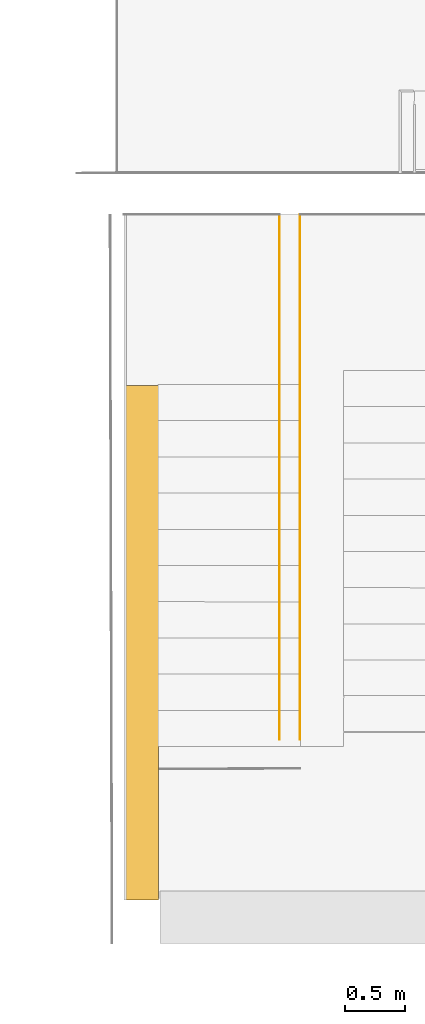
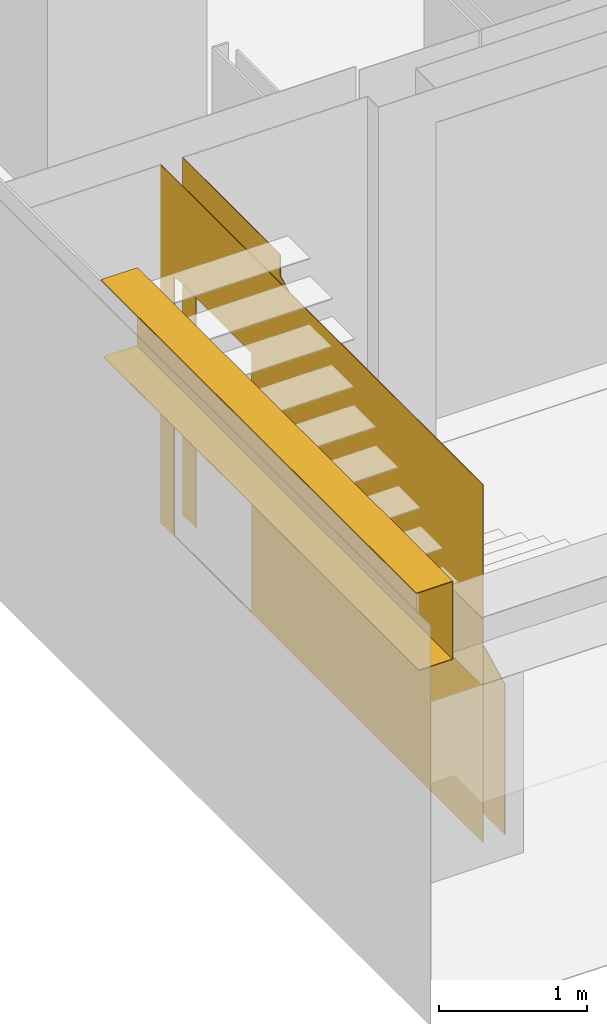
# One storey, part 31 of 33: 3 coverings, 3 openings.
"""IFC2X3 building model written with IfcOpenShell, lengths in millimetres."""

from ifc_helpers import new_model, entity, si_unit, converted_unit, derived_unit, money_unit, direction, frame, origin_with_axes, origin_2d_with_axis, place, context, subcontext, project, spatial, polyline, rectangle, outline, extrude, boolean, faceted_brep, material, type_object, element, save


model = new_model("IFC2X3")

# Units and contexts
model_context = context("Model", 3, precision=0.01, world=origin_with_axes(), true_north=direction((0.0, 1.0)))
body_context = subcontext(model_context, "Body", "Model", "MODEL_VIEW")
ifc_project = project(units=[si_unit("LENGTHUNIT", "METRE", prefix="MILLI"), si_unit("AREAUNIT", "SQUARE_METRE"), si_unit("VOLUMEUNIT", "CUBIC_METRE"), converted_unit("PLANEANGLEUNIT", "DEGREE", entity("IfcPlaneAngleMeasure", 0.0174532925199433), si_unit("PLANEANGLEUNIT", "RADIAN"), dimensions=[0, 0, 0, 0, 0, 0, 0]), money_unit("EUR"), converted_unit("TIMEUNIT", "Year", entity("IfcTimeMeasure", 31556926.0), si_unit("TIMEUNIT", "SECOND"), dimensions=[0, 0, 1, 0, 0, 0, 0]), si_unit("MASSUNIT", "GRAM", prefix="KILO"), si_unit("THERMODYNAMICTEMPERATUREUNIT", "DEGREE_CELSIUS"), si_unit("LUMINOUSINTENSITYUNIT", "LUMEN"), si_unit("ENERGYUNIT", "JOULE", prefix="MEGA"), derived_unit("THERMALCONDUCTANCEUNIT", [(si_unit("POWERUNIT", "WATT"), 1), (si_unit("LENGTHUNIT", "METRE"), -1), (si_unit("THERMODYNAMICTEMPERATUREUNIT", "KELVIN"), -1)]), derived_unit("SPECIFICHEATCAPACITYUNIT", [(si_unit("ENERGYUNIT", "JOULE"), 1), (si_unit("MASSUNIT", "GRAM", prefix="KILO"), -1), (si_unit("THERMODYNAMICTEMPERATUREUNIT", "KELVIN"), -1)]), derived_unit("MASSDENSITYUNIT", [(si_unit("MASSUNIT", "GRAM", prefix="KILO"), 1), (si_unit("VOLUMEUNIT", "CUBIC_METRE"), -1)])], contexts=[model_context])

# Site, building, storey
site_placement = place(None, origin_with_axes())
site = spatial("IfcSite", under=ifc_project, at=site_placement, Name="Paldiski mnt 245/1, Tallinn, Harjumaa", CompositionType="COMPLEX")
building_placement = place(site_placement, origin_with_axes())
building = spatial("IfcBuilding", under=site, at=building_placement, Name="RKAS Hoone üldnimetus (kasutust iseloomustav) -> IFC Project Manager -> SOLIBRI", CompositionType="ELEMENT")
storey_placement = place(building_placement, origin_with_axes())
storey = spatial("IfcBuildingStorey", under=building, at=storey_placement, Name="Esimene korrus", CompositionType="ELEMENT", Elevation=0.0)

# Covering, openings
ifc_material_1 = material(Name="SA- Värv SM10(tumehall)")
covering_type_1 = type_object("IfcCoveringType", Name="SA- Värv SM10(tumehall) 5", PredefinedType="CLADDING")
covering_1_placement = place(storey_placement, frame((-46135.0000000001, -6470.084087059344, 0.0), z_axis=(0.0, 0.0, 1.0), x_axis=(0.0, -1.0, 0.0)))
covering_1 = element("IfcCovering", 1, at=covering_1_placement, inside=storey, type_object=covering_type_1, material=ifc_material_1, Name="SM10", PredefinedType="CLADDING", context=body_context, shape_type="CSG", body=[
    boolean("DIFFERENCE", boolean("DIFFERENCE", extrude(outline(polyline([(0.0, 0.0), (4352.251295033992, 0.0), (4352.251295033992, 5.000000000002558), (0.0, 5.000000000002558), (0.0, 0.0)])), origin_with_axes(), (0.0, 0.0, 1.0), 2950.0), faceted_brep([(1495.41676623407, 4.999999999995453, 2685.994500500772), (1320.416771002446, 4.999999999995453, 2774.024801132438), (1320.416771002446, 4.999999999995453, 2950.0), (4352.251295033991, 5.000000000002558, 2950.0), (4352.251295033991, 5.000000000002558, 1248.920161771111), (4345.416766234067, 5.000000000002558, 1252.358136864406), (4320.416766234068, 5.000000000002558, 1264.933894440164), (4270.416766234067, 4.999999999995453, 1290.08540959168), (4220.416766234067, 4.999999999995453, 1315.236924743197), (4195.416766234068, 5.000000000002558, 1327.812682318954), (4120.416766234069, 5.000000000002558, 1365.539955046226), (4045.41676623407, 5.000000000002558, 1403.267227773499), (4020.416766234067, 5.000000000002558, 1415.842985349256), (3970.416766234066, 4.999999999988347, 1440.994500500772), (3920.41676623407, 5.000000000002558, 1466.146015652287), (3895.416766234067, 5.000000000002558, 1478.721773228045), (3820.416766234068, 5.000000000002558, 1516.449045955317), (3720.416766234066, 4.999999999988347, 1566.752076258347), (3620.416766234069, 5.000000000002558, 1617.055106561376), (3520.416766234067, 5.000000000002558, 1667.358136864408), (3445.416766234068, 4.999999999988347, 1705.08540959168), (3370.416766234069, 4.999999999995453, 1742.812682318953), (3295.41676623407, 5.000000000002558, 1780.539955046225), (3220.416766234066, 5.000000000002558, 1818.267227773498), (3145.416766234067, 4.999999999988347, 1855.99450050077), (3120.416766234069, 4.999999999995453, 1868.570258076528), (3070.416766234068, 5.000000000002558, 1893.721773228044), (3020.416766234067, 5.000000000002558, 1918.87328837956), (2995.416766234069, 5.000000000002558, 1931.449045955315), (2920.416766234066, 5.000000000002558, 1969.176318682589), (2820.416766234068, 4.999999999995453, 2019.47934898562), (2720.416766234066, 5.000000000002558, 2069.782379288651), (2620.416766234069, 4.999999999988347, 2120.08540959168), (2545.41676623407, 4.999999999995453, 2157.812682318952), (2520.416766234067, 4.999999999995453, 2170.388439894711), (2470.416766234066, 4.999999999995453, 2195.539955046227), (2420.416766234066, 5.000000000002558, 2220.691470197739), (2395.416766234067, 5.000000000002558, 2233.267227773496), (2320.416766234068, 4.999999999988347, 2270.994500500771), (2245.416766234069, 4.999999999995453, 2308.721773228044), (2220.416766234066, 4.999999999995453, 2321.297530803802), (2170.416766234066, 4.999999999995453, 2346.449045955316), (2120.416766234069, 5.000000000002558, 2371.60056110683), (2095.416766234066, 4.999999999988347, 2384.17631868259), (2020.416766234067, 4.999999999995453, 2421.903591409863), (1920.416766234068, 4.999999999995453, 2472.206621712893), (1820.416766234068, 4.999999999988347, 2522.509652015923), (1720.416766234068, 4.999999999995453, 2572.812682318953), (1645.416766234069, 4.999999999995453, 2610.539955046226), (1570.416766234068, 4.999999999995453, 2648.267227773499), (1495.41676623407, 0.0, 2685.994500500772), (1320.416771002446, 0.0, 2774.024801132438), (1320.416771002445, 0.0, 2950.0), (4352.251295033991, 0.0, 2950.0), (4352.251295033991, 1.13686837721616e-10, 1248.920161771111), (4345.416766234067, 1.13686837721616e-10, 1252.358136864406), (4320.416766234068, 1.13686837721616e-10, 1264.933894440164), (4270.416766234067, 0.0, 1290.08540959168), (4220.416766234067, 0.0, 1315.236924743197), (4195.416766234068, 1.06581410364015e-10, 1327.812682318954), (4120.416766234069, 1.06581410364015e-10, 1365.539955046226), (4045.41676623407, 1.06581410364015e-10, 1403.267227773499), (4020.416766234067, 1.06581410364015e-10, 1415.842985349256), (3970.416766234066, 0.0, 1440.994500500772), (3920.41676623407, 0.0, 1466.146015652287), (3895.416766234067, 0.0, 1478.721773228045), (3820.416766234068, 0.0, 1516.449045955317), (3720.416766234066, 0.0, 1566.752076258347), (3620.416766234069, 0.0, 1617.055106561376), (3520.416766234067, 0.0, 1667.358136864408), (3445.416766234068, 0.0, 1705.08540959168), (3370.416766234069, 0.0, 1742.812682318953), (3295.41676623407, 0.0, 1780.539955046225), (3220.416766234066, 0.0, 1818.267227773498), (3145.416766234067, 0.0, 1855.99450050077), (3120.416766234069, 0.0, 1868.570258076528), (3070.416766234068, 0.0, 1893.721773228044), (3020.416766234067, 0.0, 1918.87328837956), (2995.416766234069, 0.0, 1931.449045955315), (2920.416766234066, 0.0, 1969.176318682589), (2820.416766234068, 0.0, 2019.47934898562), (2720.416766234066, 0.0, 2069.782379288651), (2620.416766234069, 0.0, 2120.08540959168), (2545.41676623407, 0.0, 2157.812682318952), (2520.416766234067, 0.0, 2170.388439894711), (2470.416766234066, 0.0, 2195.539955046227), (2420.416766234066, 0.0, 2220.691470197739), (2395.416766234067, 0.0, 2233.267227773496), (2320.416766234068, 0.0, 2270.994500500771), (2245.416766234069, 0.0, 2308.721773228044), (2220.416766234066, 0.0, 2321.297530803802), (2170.416766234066, 0.0, 2346.449045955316), (2120.416766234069, 0.0, 2371.60056110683), (2095.416766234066, 0.0, 2384.17631868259), (2020.416766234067, 0.0, 2421.903591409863), (1920.416766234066, 0.0, 2472.206621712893), (1820.416766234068, 0.0, 2522.509652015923), (1720.416766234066, 0.0, 2572.812682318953), (1645.416766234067, 0.0, 2610.539955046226), (1570.416766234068, 0.0, 2648.267227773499)], [[[0, 1, 2, 3, 4, 5, 6, 7, 8, 9, 10, 11, 12, 13, 14, 15, 16, 17, 18, 19, 20, 21, 22, 23, 24, 25, 26, 27, 28, 29, 30, 31, 32, 33, 34, 35, 36, 37, 38, 39, 40, 41, 42, 43, 44, 45, 46, 47, 48, 49]], [[1, 0, 50, 51]], [[52, 2, 1, 51]], [[2, 52, 53, 3]], [[54, 4, 3, 53]], [[5, 4, 54, 55]], [[6, 5, 55, 56]], [[7, 6, 56, 57]], [[8, 7, 57, 58]], [[9, 8, 58, 59]], [[10, 9, 59, 60]], [[11, 10, 60, 61]], [[12, 11, 61, 62]], [[13, 12, 62, 63]], [[14, 13, 63, 64]], [[15, 14, 64, 65]], [[16, 15, 65, 66]], [[17, 16, 66, 67]], [[18, 17, 67, 68]], [[19, 18, 68, 69]], [[20, 19, 69, 70]], [[21, 20, 70, 71]], [[22, 21, 71, 72]], [[23, 22, 72, 73]], [[24, 23, 73, 74]], [[25, 24, 74, 75]], [[26, 25, 75, 76]], [[27, 26, 76, 77]], [[28, 27, 77, 78]], [[29, 28, 78, 79]], [[30, 29, 79, 80]], [[31, 30, 80, 81]], [[32, 31, 81, 82]], [[33, 32, 82, 83]], [[34, 33, 83, 84]], [[35, 34, 84, 85]], [[36, 35, 85, 86]], [[37, 36, 86, 87]], [[38, 37, 87, 88]], [[39, 38, 88, 89]], [[40, 39, 89, 90]], [[41, 40, 90, 91]], [[42, 41, 91, 92]], [[43, 42, 92, 93]], [[44, 43, 93, 94]], [[45, 44, 94, 95]], [[46, 45, 95, 96]], [[47, 46, 96, 97]], [[48, 47, 97, 98]], [[49, 48, 98, 99]], [[0, 49, 99, 50]], [[55, 54, 53, 52, 51, 50, 99, 98, 97, 96, 95, 94, 93, 92, 91, 90, 89, 88, 87, 86, 85, 84, 83, 82, 81, 80, 79, 78, 77, 76, 75, 74, 73, 72, 71, 70, 69, 68, 67, 66, 65, 64, 63, 62, 61, 60, 59, 58, 57, 56]]])), faceted_brep([(3.079314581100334e-09, 0.0, 8.000000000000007), (3.079314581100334e-09, 5.000000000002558, 8.000000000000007), (0.0, 5.000000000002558, 0.0), (0.0, 0.0, 0.0), (200.003604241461, 5.003587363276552, 7.999998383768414), (199.9801222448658, 0.0, 8.000000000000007), (1199.361295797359, 5.00000000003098, 8.000000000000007), (4352.251295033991, 5.000000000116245, 8.000000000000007), (4352.251295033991, 5.000000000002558, 0.0), (200.0269204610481, 5.000000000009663, 60.03329817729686), (205.5870251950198, 5.000000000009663, 60.14114103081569), (209.9645287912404, 5.000000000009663, 56.3364535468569), (209.9711479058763, 5.000000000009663, 8.000000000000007), (990.0289619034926, 5.000000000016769, 8.000000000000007), (990.0355809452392, 5.000000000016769, 56.3364535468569), (994.4130363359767, 5.000000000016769, 60.14114103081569), (998.8703294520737, 5.000000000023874, 60.05468717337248), (1195.207059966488, 5.00000000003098, 60.03329817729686), (4352.251295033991, 0.0, 0.0), (4352.251295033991, 1.13686837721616e-10, 8.000000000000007), (999.9964126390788, 0.0, 8.000000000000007), (999.9730798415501, 0.0, 60.03329817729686), (994.4130363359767, 0.0, 60.14114103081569), (990.0355809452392, 0.0, 56.3364535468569), (990.0289619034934, 0.0, 8.000000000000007), (209.9476827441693, 0.0, 8.000000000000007), (209.9410636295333, 0.0, 56.3364535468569), (205.5635600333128, 0.0, 60.14114103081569), (200.0034552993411, 0.0, 60.03329817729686), (999.9964126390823, 3.880223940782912, 8.000000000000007), (999.9730798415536, 3.903426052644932, 60.03329817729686)], [[[0, 1, 2, 3]], [[4, 1, 0, 5]], [[6, 7, 8, 2, 1, 4, 9, 10, 11, 12, 13, 14, 15, 16, 17]], [[2, 8, 18, 3]], [[5, 0, 3, 18, 19, 20, 21, 22, 23, 24, 25, 26, 27, 28]], [[9, 4, 5, 28]], [[7, 6, 29, 20, 19]], [[7, 19, 18, 8]], [[10, 9, 28, 27]], [[11, 10, 27, 26]], [[12, 11, 26, 25]], [[13, 12, 25, 24]], [[14, 13, 24, 23]], [[15, 14, 23, 22]], [[16, 15, 22, 21, 30]], [[17, 16, 30]], [[6, 17, 30, 29]], [[21, 20, 29, 30]]])),
])
opening_1_placement = place(covering_1_placement, frame((-6470.084087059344, 46135.0000000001, 0.0), z_axis=(0.0, 0.0, 1.0), x_axis=(0.0, 1.0, 0.0)))
element("IfcOpeningElement", 2, at=opening_1_placement, cuts=covering_1, Name="AVA", ObjectType="OPENING", context=body_context, shape_type="SweptSolid", body=[
    extrude(rectangle(XDim=833.2070641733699, YDim=2133.716326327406, at=origin_2d_with_axis()), frame((-46140.00000000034, -7070.764160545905, 1074.858163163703), z_axis=(-1.0, 0.0, 0.0), x_axis=(0.0, -1.0, 0.0)), (0.0, 0.0, -1.0), 15.00000000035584),
])
opening_2_placement = place(covering_1_placement, frame((-6470.084087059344, 46135.0000000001, 0.0), z_axis=(0.0, 0.0, 1.0), x_axis=(0.0, 1.0, 0.0)))
element("IfcOpeningElement", 3, at=opening_2_placement, cuts=covering_1, Name="AVA", ObjectType="OPENING", context=body_context, shape_type="SweptSolid", body=[
    extrude(rectangle(XDim=837.8032747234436, YDim=2113.167381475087, at=origin_2d_with_axis()), frame((-46140.00000000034, -7072.761125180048, 1064.583690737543), z_axis=(-1.0, 0.0, 0.0), x_axis=(0.0, -1.0, 0.0)), (0.0, 0.0, -1.0), 15.00000000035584),
])

# Covering, opening
ifc_material_2 = material(Name="SA- Värv SM5(valge)")
covering_type_2 = type_object("IfcCoveringType", Name="SA- Värv SM5(valge) 5", PredefinedType="CLADDING")
covering_2_placement = place(storey_placement, frame((-46305.00000000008, -6470.084087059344, 0.0), z_axis=(0.0, 0.0, 1.0), x_axis=(0.0, -1.0, 0.0)))
covering_2 = element("IfcCovering", 4, at=covering_2_placement, inside=storey, type_object=covering_type_2, material=ifc_material_2, Name="SM5", PredefinedType="CLADDING", context=body_context, shape_type="CSG", body=[
    boolean("DIFFERENCE", extrude(outline(polyline([(-3.072031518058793e-08, 0.0), (4352.251295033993, 0.0), (4352.251295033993, 5.000000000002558), (-3.072031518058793e-08, 5.000000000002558), (-3.072031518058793e-08, 0.0)])), origin_with_axes(), (0.0, 0.0, 1.0), 2950.0), faceted_brep([(4345.416766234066, -1.989519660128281e-10, 1252.358136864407), (4352.251295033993, 1.13686837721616e-10, 1248.92016177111), (4352.251295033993, 0.0, 2950.0), (-3.072031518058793e-08, 0.0, 2950.0), (-3.072031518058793e-08, 0.0, 0.0), (4352.251295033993, 0.0, 0.0), (4352.251295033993, 1.13686837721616e-10, 60.12975625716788), (1000.000000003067, 0.0, 60.12975625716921), (1000.000000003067, 0.0, 8.000000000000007), (4.999999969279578, 0.0, 8.000000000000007), (5.00000000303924, 0.0, 2798.073191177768), (200.000000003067, 0.0, 2798.073191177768), (200.000000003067, 0.0, 2858.129756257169), (4.999999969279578, 3.375788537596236e-08, 2858.129756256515), (4.999999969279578, 0.0, 2945.0), (1320.416760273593, 0.0, 2945.0), (1320.416760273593, -3.268496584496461e-10, 2774.024806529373), (1495.41676623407, -3.197442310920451e-10, 2685.994500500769), (1570.416766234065, -3.126388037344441e-10, 2648.267227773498), (1645.416766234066, -3.126388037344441e-10, 2610.539955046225), (1720.416766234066, -3.126388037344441e-10, 2572.812682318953), (1820.416766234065, -3.197442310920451e-10, 2522.509652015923), (1920.416766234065, -2.984279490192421e-10, 2472.206621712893), (2020.416766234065, -2.984279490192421e-10, 2421.903591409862), (2095.416766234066, -3.055333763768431e-10, 2384.176318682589), (2120.416766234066, -2.913225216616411e-10, 2371.600561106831), (2170.416766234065, -2.913225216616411e-10, 2346.449045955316), (2220.416766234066, -2.913225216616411e-10, 2321.297530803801), (2245.416766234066, -2.913225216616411e-10, 2308.721773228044), (2320.416766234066, -2.913225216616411e-10, 2270.994500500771), (2395.416766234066, -2.771116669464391e-10, 2233.267227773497), (2420.416766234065, -2.771116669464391e-10, 2220.69147019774), (2470.416766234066, -2.771116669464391e-10, 2195.539955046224), (2520.416766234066, -2.771116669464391e-10, 2170.38843989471), (2545.416766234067, -2.771116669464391e-10, 2157.812682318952), (2620.416766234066, -2.842170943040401e-10, 2120.08540959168), (2720.416766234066, -2.629008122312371e-10, 2069.78237928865), (2820.416766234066, -2.629008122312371e-10, 2019.47934898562), (2920.416766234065, -2.557953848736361e-10, 1969.176318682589), (2995.416766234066, -2.557953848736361e-10, 1931.449045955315), (3020.416766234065, -2.557953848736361e-10, 1918.873288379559), (3070.416766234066, -2.557953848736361e-10, 1893.721773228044), (3120.416766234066, -2.557953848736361e-10, 1868.57025807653), (3145.416766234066, -2.557953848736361e-10, 1855.994500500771), (3220.416766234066, -2.415845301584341e-10, 1818.267227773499), (3295.416766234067, -2.415845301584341e-10, 1780.539955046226), (3370.416766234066, -2.415845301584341e-10, 1742.812682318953), (3445.416766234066, -2.486899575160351e-10, 1705.08540959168), (3520.416766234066, -2.344791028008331e-10, 1667.358136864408), (3620.416766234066, -2.273736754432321e-10, 1617.055106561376), (3720.416766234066, -2.344791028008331e-10, 1566.752076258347), (3820.416766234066, -2.202682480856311e-10, 1516.449045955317), (3895.416766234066, -2.202682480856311e-10, 1478.721773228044), (3920.416766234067, -2.202682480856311e-10, 1466.146015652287), (3970.416766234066, -2.273736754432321e-10, 1440.994500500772), (4020.416766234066, -2.060573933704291e-10, 1415.842985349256), (4045.416766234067, -2.060573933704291e-10, 1403.267227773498), (4120.416766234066, -2.060573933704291e-10, 1365.539955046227), (4195.416766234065, -2.060573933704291e-10, 1327.812682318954), (4220.416766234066, -2.131628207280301e-10, 1315.236924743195), (4270.416766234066, -2.131628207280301e-10, 1290.08540959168), (4320.416766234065, -1.989519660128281e-10, 1264.933894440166), (4345.416766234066, 4.999667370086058, 1252.358136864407), (4352.251295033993, 5.000000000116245, 1248.92016177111), (4352.251295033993, 5.000000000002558, 2950.0), (-3.072031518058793e-08, 5.000000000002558, 2950.0), (-3.072031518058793e-08, 5.000000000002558, 0.0), (4352.251295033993, 5.000000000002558, 0.0), (4352.251295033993, 5.000000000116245, 8.000000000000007), (4352.251295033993, 4.973079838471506, 60.03329817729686), (1000.000000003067, 4.97307983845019, 60.03329817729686), (1000.000000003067, 4.996412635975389, 8.000000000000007), (4.999999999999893, 5.000000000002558, 8.000000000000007), (4.999999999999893, 4.999994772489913, 2798.000000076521), (200.000000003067, 4.999999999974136, 2798.0), (200.000000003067, 4.973079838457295, 2858.033298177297), (4.999999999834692, 4.973079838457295, 2858.033298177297), (4.999999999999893, 4.999994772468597, 2798.011657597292), (4.999999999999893, 4.999994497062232, 2945.0), (1320.416760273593, 4.999994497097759, 2945.0), (1320.416760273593, 5.000591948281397, 2774.024806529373), (1495.41676623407, 5.000538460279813, 2685.994500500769), (1570.416766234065, 5.000515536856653, 2648.267227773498), (1645.416766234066, 5.000492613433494, 2610.539955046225), (1720.416766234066, 5.000469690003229, 2572.812682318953), (1820.416766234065, 5.000439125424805, 2522.509652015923), (1920.416766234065, 5.000408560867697, 2472.206621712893), (2020.416766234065, 5.000377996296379, 2421.903591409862), (2095.416766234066, 5.000355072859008, 2384.176318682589), (2120.416766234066, 5.000347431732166, 2371.600561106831), (2170.416766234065, 5.00033214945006, 2346.449045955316), (2220.416766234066, 5.000316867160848, 2321.297530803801), (2245.416766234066, 5.000309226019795, 2308.721773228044), (2320.416766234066, 5.000286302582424, 2270.994500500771), (2395.416766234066, 5.00026337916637, 2233.267227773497), (2420.416766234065, 5.000255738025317, 2220.69147019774), (2470.416766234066, 5.00024045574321, 2195.539955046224), (2520.416766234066, 5.000225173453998, 2170.38843989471), (2545.416766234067, 5.000217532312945, 2157.812682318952), (2620.416766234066, 5.000194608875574, 2120.08540959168), (2720.416766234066, 5.000164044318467, 2069.78237928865), (2820.416766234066, 5.000133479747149, 2019.47934898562), (2920.416766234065, 5.000102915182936, 1969.176318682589), (2995.416766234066, 5.000079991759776, 1931.449045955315), (3020.416766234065, 5.000072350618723, 1918.873288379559), (3070.416766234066, 5.000057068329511, 1893.721773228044), (3120.416766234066, 5.000041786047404, 1868.57025807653), (3145.416766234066, 5.00003414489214, 1855.994500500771), (3220.416766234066, 5.000011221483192, 1818.267227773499), (3295.416766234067, 4.999988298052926, 1780.539955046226), (3370.416766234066, 4.999965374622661, 1742.812682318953), (3445.416766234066, 4.999942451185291, 1705.08540959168), (3520.416766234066, 4.999919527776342, 1667.358136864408), (3620.416766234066, 4.999888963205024, 1617.055106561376), (3720.416766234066, 4.9998583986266, 1566.752076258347), (3820.416766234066, 4.999827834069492, 1516.449045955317), (3895.416766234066, 4.999804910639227, 1478.721773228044), (3920.416766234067, 4.999797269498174, 1466.146015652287), (3970.416766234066, 4.999781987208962, 1440.994500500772), (4020.416766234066, 4.999766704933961, 1415.842985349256), (4045.416766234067, 4.999759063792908, 1403.267227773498), (4120.416766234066, 4.999736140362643, 1365.539955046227), (4195.416766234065, 4.999713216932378, 1327.812682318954), (4220.416766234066, 4.999705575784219, 1315.236924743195), (4270.416766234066, 4.999690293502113, 1290.08540959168), (4320.416766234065, 4.999675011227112, 1264.933894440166)], [[[0, 1, 2, 3, 4, 5, 6, 7, 8, 9, 10, 11, 12, 13, 14, 15, 16, 17, 18, 19, 20, 21, 22, 23, 24, 25, 26, 27, 28, 29, 30, 31, 32, 33, 34, 35, 36, 37, 38, 39, 40, 41, 42, 43, 44, 45, 46, 47, 48, 49, 50, 51, 52, 53, 54, 55, 56, 57, 58, 59, 60, 61]], [[1, 0, 62, 63]], [[1, 63, 64, 2]], [[3, 2, 64, 65]], [[4, 3, 65, 66]], [[5, 4, 66, 67]], [[5, 67, 68, 69, 6]], [[7, 6, 69, 70]], [[8, 7, 70, 71]], [[9, 8, 71, 72]], [[10, 9, 72, 73]], [[11, 10, 73, 74]], [[12, 11, 74, 75]], [[13, 12, 75, 76]], [[14, 13, 76, 77, 78]], [[15, 14, 78, 79]], [[16, 15, 79, 80]], [[17, 16, 80, 81]], [[18, 17, 81, 82]], [[19, 18, 82, 83]], [[20, 19, 83, 84]], [[21, 20, 84, 85]], [[22, 21, 85, 86]], [[23, 22, 86, 87]], [[24, 23, 87, 88]], [[25, 24, 88, 89]], [[26, 25, 89, 90]], [[27, 26, 90, 91]], [[28, 27, 91, 92]], [[29, 28, 92, 93]], [[30, 29, 93, 94]], [[31, 30, 94, 95]], [[32, 31, 95, 96]], [[33, 32, 96, 97]], [[34, 33, 97, 98]], [[35, 34, 98, 99]], [[36, 35, 99, 100]], [[37, 36, 100, 101]], [[38, 37, 101, 102]], [[39, 38, 102, 103]], [[40, 39, 103, 104]], [[41, 40, 104, 105]], [[42, 41, 105, 106]], [[43, 42, 106, 107]], [[44, 43, 107, 108]], [[45, 44, 108, 109]], [[46, 45, 109, 110]], [[47, 46, 110, 111]], [[48, 47, 111, 112]], [[49, 48, 112, 113]], [[50, 49, 113, 114]], [[51, 50, 114, 115]], [[52, 51, 115, 116]], [[53, 52, 116, 117]], [[54, 53, 117, 118]], [[55, 54, 118, 119]], [[56, 55, 119, 120]], [[57, 56, 120, 121]], [[58, 57, 121, 122]], [[59, 58, 122, 123]], [[60, 59, 123, 124]], [[61, 60, 124, 125]], [[0, 61, 125, 62]], [[63, 62, 125, 124, 123, 122, 121, 120, 119, 118, 117, 116, 115, 114, 113, 112, 111, 110, 109, 108, 107, 106, 105, 104, 103, 102, 101, 100, 99, 98, 97, 96, 95, 94, 93, 92, 91, 90, 89, 88, 87, 86, 85, 84, 83, 82, 81, 80, 79, 78, 77, 74, 73, 72, 71, 68, 67, 66, 65, 64]], [[69, 68, 71, 70]], [[75, 74, 77, 76]]])),
])
opening_3_placement = place(covering_2_placement, frame((-6470.084087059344, 46305.00000000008, 0.0), z_axis=(0.0, 0.0, 1.0), x_axis=(0.0, 1.0, 0.0)))
element("IfcOpeningElement", 5, at=opening_3_placement, cuts=covering_2, Name="AVA", ObjectType="OPENING", context=body_context, shape_type="SweptSolid", body=[
    extrude(rectangle(XDim=1042.395990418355, YDim=2133.716326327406, at=origin_2d_with_axis()), frame((-46310.00000000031, -7175.057483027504, 1074.858163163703), z_axis=(-1.0, 0.0, 0.0), x_axis=(0.0, -1.0, 0.0)), (0.0, 0.0, -1.0), 15.00000000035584),
])

# Covering
covering_type_3 = type_object("IfcCoveringType", Name="SA- Värv SM5(valge)", PredefinedType="CLADDING")
covering_3_placement = place(storey_placement, frame((-47589.9999974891, -11069.59074271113, 3308.0), z_axis=(0.0, 0.0, 1.0), x_axis=(1.0, 0.0, 0.0)))
element("IfcCovering", 6, at=covering_3_placement, inside=storey, type_object=covering_type_3, material=ifc_material_2, Name="SM5", PredefinedType="CLADDING", context=body_context, shape_type="Brep", body=[
    faceted_brep([(19.99999748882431, -1080.493344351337, -636.38885512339), (279.9999974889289, -1080.493344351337, -636.38885512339), (279.9999974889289, 3179.089889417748, -636.38885512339), (19.99999748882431, 3179.089889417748, -636.38885512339), (19.99999748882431, -1080.493344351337, -641.3888551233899), (279.9999974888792, -1080.493344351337, -641.3888551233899), (284.9999974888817, -1080.493344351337, -641.3888551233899), (285.0000043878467, -1080.493344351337, -3.065504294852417e-06), (285.0000044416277, -1080.493344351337, 4.999996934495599), (-4.18681622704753e-06, -1080.493344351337, 4.999997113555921), (0.0, -1080.493344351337, 0.0), (280.0000353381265, -1080.493344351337, 0.0), (279.9999974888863, -1080.493344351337, -357.9999999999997), (279.9999974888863, 3179.089889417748, -357.9999999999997), (279.9999974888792, 3179.089889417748, -641.3888551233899), (19.99999748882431, 3179.089889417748, -641.3888551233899), (280.0000353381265, 3179.089889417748, 0.0), (0.0, 3179.089889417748, 0.0), (-4.18681622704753e-06, 3179.089889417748, 4.999997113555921), (285.0000044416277, 3179.089889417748, 4.999996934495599), (285.0000043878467, 3179.089889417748, -3.065504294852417e-06), (284.9999974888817, 3179.089889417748, -641.3888551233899)], [[[0, 1, 2, 3]], [[0, 4, 5, 6, 7, 8, 9, 10, 11, 12, 1]], [[1, 12, 13, 2]], [[14, 15, 3, 2, 13, 16, 17, 18, 19, 20, 21]], [[4, 0, 3, 15]], [[5, 4, 15, 14]], [[5, 14, 21, 6]], [[7, 6, 21, 20]], [[8, 7, 20, 19]], [[18, 9, 8, 19]], [[10, 9, 18, 17]], [[10, 17, 16, 11]], [[12, 11, 16, 13]]]),
])

save(model, "model.ifc")
